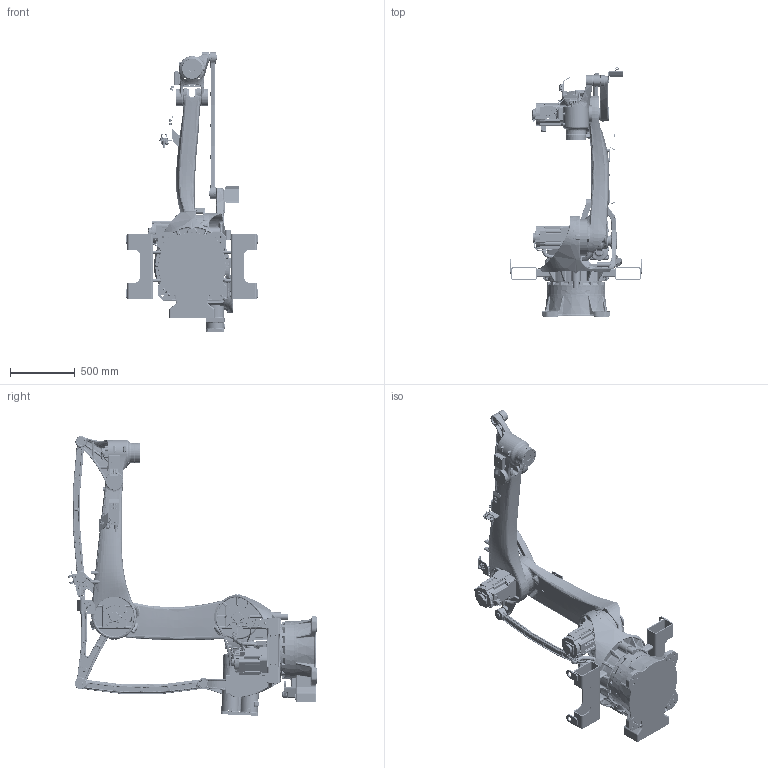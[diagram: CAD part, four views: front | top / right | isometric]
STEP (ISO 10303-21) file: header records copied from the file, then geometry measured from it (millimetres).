
FILE_DESCRIPTION (( 'STEP AP203' ), '1' );
FILE_NAME ('PR2400 ±¾Ìåshell 2022.STEP', '2022-11-07T02:55:53', ( '' ), ( '' ), 'SwSTEP 2.0', 'SolidWorks 2016', '' );
FILE_SCHEMA (( 'CONFIG_CONTROL_DESIGN' ));
Length unit declared in the file: millimetre
Products named in the file (12): PR2409-1 粟銅詰詰极郪璃shell; PR2409-2 弹簧缸活塞组件shell; PR2402 殈窒郪璃shell; PR2406 怀堤楊擘shell; PR2404 三角臂组件shell; PR2400 掛极shell 2022; PR2405 苤旋郪璃shell; PR2408 苤旋嶺裝郪璃shell; PR2407 湮旋嶺裝郪璃shell; PR2401 菁釱郪璃shell; PR2406 勂窒郪璃shell; PR2403 湮旋郪璃shell
Assembly tree (11 placements, depth 2):
  PR2400 掛极shell 2022
    PR2401 菁釱郪璃shell
    PR2402 殈窒郪璃shell
    PR2403 湮旋郪璃shell
    PR2404 三角臂组件shell
    PR2405 苤旋郪璃shell
    PR2406 勂窒郪璃shell
    PR2407 湮旋嶺裝郪璃shell
    PR2408 苤旋嶺裝郪璃shell
    PR2409-1 粟銅詰詰极郪璃shell
    PR2409-2 弹簧缸活塞组件shell
    PR2406 怀堤楊擘shell
Bounding box: 1024 x 1929.77 x 2166.66 mm (x, y, z)
Surface area: 10057115.6 mm2 (no closed solid volume)
Topology: 0 solids, 381 shells, 10971 faces, 37314 edges, 25419 vertices
Faces by surface type: cylinder 3607, bspline 2882, plane 2622, torus 1029, cone 637, sphere 194
Entity records: 682539 total; most frequent: CARTESIAN_POINT 393521, ORIENTED_EDGE 59448, DIRECTION 54135, EDGE_CURVE 36869, VERTEX_POINT 25396, AXIS2_PLACEMENT_3D 21099, CIRCLE 12996, LINE 11937
